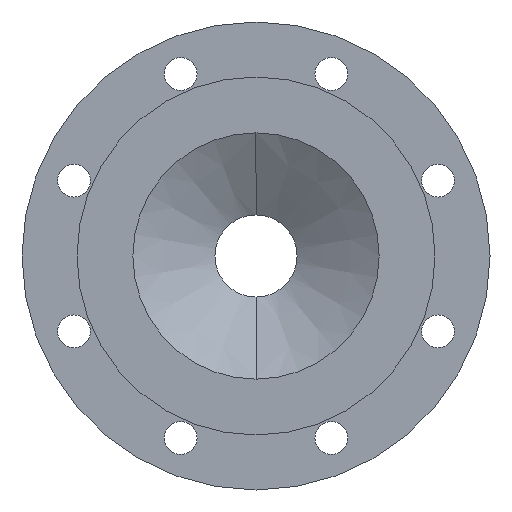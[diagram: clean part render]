
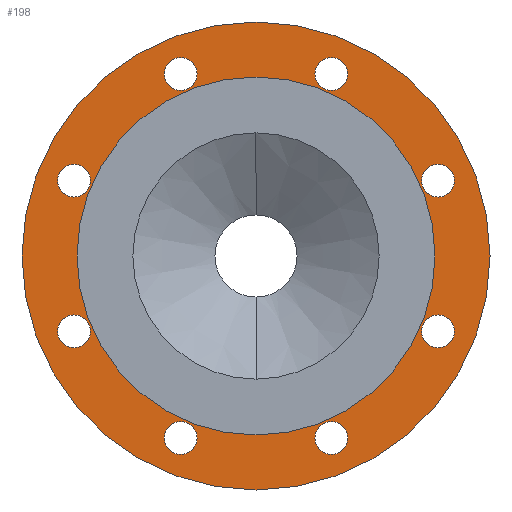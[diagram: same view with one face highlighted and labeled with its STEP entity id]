
A CAD part, left-side view. The second image highlights one B-rep face of the part: STEP entity #198.
In plain terms, the highlighted planar face has unit normal (-1, 0, 0).
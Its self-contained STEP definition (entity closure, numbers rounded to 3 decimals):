
#198=ADVANCED_FACE('',(#420,#421,#422,#423,#424,#425,#426,#427,#428,#429),#430,.F.);
#420=FACE_BOUND('',#748,.T.);
#421=FACE_BOUND('',#749,.T.);
#422=FACE_BOUND('',#750,.T.);
#423=FACE_BOUND('',#751,.T.);
#424=FACE_BOUND('',#752,.T.);
#425=FACE_BOUND('',#753,.T.);
#426=FACE_BOUND('',#754,.T.);
#427=FACE_BOUND('',#755,.T.);
#428=FACE_BOUND('',#756,.T.);
#429=FACE_OUTER_BOUND('',#757,.T.);
#430=PLANE('',#758);
#748=EDGE_LOOP('',(#1020,#1021));
#749=EDGE_LOOP('',(#1022,#1023));
#750=EDGE_LOOP('',(#1024,#1025));
#751=EDGE_LOOP('',(#1026,#1027));
#752=EDGE_LOOP('',(#1028,#1029));
#753=EDGE_LOOP('',(#1030,#1031));
#754=EDGE_LOOP('',(#1032,#1033));
#755=EDGE_LOOP('',(#1034,#1035));
#756=EDGE_LOOP('',(#1036,#1037));
#757=EDGE_LOOP('',(#1038,#1039));
#758=AXIS2_PLACEMENT_3D('',#1040,#1041,#1042);
#1020=ORIENTED_EDGE('',*,*,#1691,.T.);
#1021=ORIENTED_EDGE('',*,*,#1692,.T.);
#1022=ORIENTED_EDGE('',*,*,#1693,.T.);
#1023=ORIENTED_EDGE('',*,*,#1694,.T.);
#1024=ORIENTED_EDGE('',*,*,#1695,.T.);
#1025=ORIENTED_EDGE('',*,*,#1696,.T.);
#1026=ORIENTED_EDGE('',*,*,#1697,.T.);
#1027=ORIENTED_EDGE('',*,*,#1698,.T.);
#1028=ORIENTED_EDGE('',*,*,#1699,.T.);
#1029=ORIENTED_EDGE('',*,*,#1700,.T.);
#1030=ORIENTED_EDGE('',*,*,#1701,.T.);
#1031=ORIENTED_EDGE('',*,*,#1702,.T.);
#1032=ORIENTED_EDGE('',*,*,#1703,.T.);
#1033=ORIENTED_EDGE('',*,*,#1704,.T.);
#1034=ORIENTED_EDGE('',*,*,#1705,.T.);
#1035=ORIENTED_EDGE('',*,*,#1706,.T.);
#1036=ORIENTED_EDGE('',*,*,#1707,.T.);
#1037=ORIENTED_EDGE('',*,*,#1708,.T.);
#1038=ORIENTED_EDGE('',*,*,#1709,.F.);
#1039=ORIENTED_EDGE('',*,*,#1710,.F.);
#1040=CARTESIAN_POINT('',(1.0,0.0,0.));
#1041=DIRECTION('',(1.0,0.0,0.));
#1042=DIRECTION('',(0.,0.0,-1.0));
#1691=EDGE_CURVE('',#1956,#1957,#1958,.T.);
#1692=EDGE_CURVE('',#1957,#1956,#1959,.T.);
#1693=EDGE_CURVE('',#1960,#1961,#1962,.T.);
#1694=EDGE_CURVE('',#1961,#1960,#1963,.T.);
#1695=EDGE_CURVE('',#1964,#1965,#1966,.T.);
#1696=EDGE_CURVE('',#1965,#1964,#1967,.T.);
#1697=EDGE_CURVE('',#1968,#1969,#1970,.T.);
#1698=EDGE_CURVE('',#1969,#1968,#1971,.T.);
#1699=EDGE_CURVE('',#1972,#1973,#1974,.T.);
#1700=EDGE_CURVE('',#1973,#1972,#1975,.T.);
#1701=EDGE_CURVE('',#1976,#1977,#1978,.T.);
#1702=EDGE_CURVE('',#1977,#1976,#1979,.T.);
#1703=EDGE_CURVE('',#1980,#1981,#1982,.T.);
#1704=EDGE_CURVE('',#1981,#1980,#1983,.T.);
#1705=EDGE_CURVE('',#1984,#1985,#1986,.T.);
#1706=EDGE_CURVE('',#1985,#1984,#1987,.T.);
#1707=EDGE_CURVE('',#1988,#1989,#1990,.T.);
#1708=EDGE_CURVE('',#1989,#1988,#1991,.T.);
#1709=EDGE_CURVE('',#1992,#1993,#1994,.T.);
#1710=EDGE_CURVE('',#1993,#1992,#1995,.T.);
#1956=VERTEX_POINT('',#2335);
#1957=VERTEX_POINT('',#2336);
#1958=CIRCLE('',#2337,10.0);
#1959=CIRCLE('',#2338,10.0);
#1960=VERTEX_POINT('',#2339);
#1961=VERTEX_POINT('',#2340);
#1962=CIRCLE('',#2341,10.0);
#1963=CIRCLE('',#2342,10.0);
#1964=VERTEX_POINT('',#2343);
#1965=VERTEX_POINT('',#2344);
#1966=CIRCLE('',#2345,10.0);
#1967=CIRCLE('',#2346,10.0);
#1968=VERTEX_POINT('',#2347);
#1969=VERTEX_POINT('',#2348);
#1970=CIRCLE('',#2349,10.0);
#1971=CIRCLE('',#2350,10.0);
#1972=VERTEX_POINT('',#2351);
#1973=VERTEX_POINT('',#2352);
#1974=CIRCLE('',#2353,10.0);
#1975=CIRCLE('',#2354,10.0);
#1976=VERTEX_POINT('',#2355);
#1977=VERTEX_POINT('',#2356);
#1978=CIRCLE('',#2357,10.0);
#1979=CIRCLE('',#2358,10.0);
#1980=VERTEX_POINT('',#2359);
#1981=VERTEX_POINT('',#2360);
#1982=CIRCLE('',#2361,10.0);
#1983=CIRCLE('',#2362,10.0);
#1984=VERTEX_POINT('',#2363);
#1985=VERTEX_POINT('',#2364);
#1986=CIRCLE('',#2365,10.0);
#1987=CIRCLE('',#2366,10.0);
#1988=VERTEX_POINT('',#2367);
#1989=VERTEX_POINT('',#2368);
#1990=CIRCLE('',#2369,109.0);
#1991=CIRCLE('',#2370,109.0);
#1992=VERTEX_POINT('',#2371);
#1993=VERTEX_POINT('',#2372);
#1994=CIRCLE('',#2373,142.5);
#1995=CIRCLE('',#2374,142.5);
#2335=CARTESIAN_POINT('',(1.0,110.866,-55.922));
#2336=CARTESIAN_POINT('',(1.0,110.866,-35.922));
#2337=AXIS2_PLACEMENT_3D('',#2819,#2820,#2821);
#2338=AXIS2_PLACEMENT_3D('',#2822,#2823,#2824);
#2339=CARTESIAN_POINT('',(1.0,45.922,-120.866));
#2340=CARTESIAN_POINT('',(1.,45.922,-100.866));
#2341=AXIS2_PLACEMENT_3D('',#2825,#2826,#2827);
#2342=AXIS2_PLACEMENT_3D('',#2828,#2829,#2830);
#2343=CARTESIAN_POINT('',(1.0,-110.866,35.922));
#2344=CARTESIAN_POINT('',(1.,-110.866,55.922));
#2345=AXIS2_PLACEMENT_3D('',#2831,#2832,#2833);
#2346=AXIS2_PLACEMENT_3D('',#2834,#2835,#2836);
#2347=CARTESIAN_POINT('',(1.0,-45.922,100.866));
#2348=CARTESIAN_POINT('',(1.,-45.922,120.866));
#2349=AXIS2_PLACEMENT_3D('',#2837,#2838,#2839);
#2350=AXIS2_PLACEMENT_3D('',#2840,#2841,#2842);
#2351=CARTESIAN_POINT('',(1.0,110.866,35.922));
#2352=CARTESIAN_POINT('',(1.,110.866,55.922));
#2353=AXIS2_PLACEMENT_3D('',#2843,#2844,#2845);
#2354=AXIS2_PLACEMENT_3D('',#2846,#2847,#2848);
#2355=CARTESIAN_POINT('',(1.0,45.922,100.866));
#2356=CARTESIAN_POINT('',(1.,45.922,120.866));
#2357=AXIS2_PLACEMENT_3D('',#2849,#2850,#2851);
#2358=AXIS2_PLACEMENT_3D('',#2852,#2853,#2854);
#2359=CARTESIAN_POINT('',(1.0,-110.866,-55.922));
#2360=CARTESIAN_POINT('',(1.0,-110.866,-35.922));
#2361=AXIS2_PLACEMENT_3D('',#2855,#2856,#2857);
#2362=AXIS2_PLACEMENT_3D('',#2858,#2859,#2860);
#2363=CARTESIAN_POINT('',(1.0,-45.922,-120.866));
#2364=CARTESIAN_POINT('',(1.,-45.922,-100.866));
#2365=AXIS2_PLACEMENT_3D('',#2861,#2862,#2863);
#2366=AXIS2_PLACEMENT_3D('',#2864,#2865,#2866);
#2367=CARTESIAN_POINT('',(1.,0.0,-109.0));
#2368=CARTESIAN_POINT('',(1.,0.,109.0));
#2369=AXIS2_PLACEMENT_3D('',#2867,#2868,#2869);
#2370=AXIS2_PLACEMENT_3D('',#2870,#2871,#2872);
#2371=CARTESIAN_POINT('',(1.,0.0,-142.5));
#2372=CARTESIAN_POINT('',(1.,0.,142.5));
#2373=AXIS2_PLACEMENT_3D('',#2873,#2874,#2875);
#2374=AXIS2_PLACEMENT_3D('',#2876,#2877,#2878);
#2819=CARTESIAN_POINT('',(1.0,110.866,-45.922));
#2820=DIRECTION('',(1.0,0.0,0.));
#2821=DIRECTION('',(0.,0.0,-1.0));
#2822=CARTESIAN_POINT('',(1.0,110.866,-45.922));
#2823=DIRECTION('',(1.0,0.0,0.));
#2824=DIRECTION('',(0.,0.0,-1.0));
#2825=CARTESIAN_POINT('',(1.,45.922,-110.866));
#2826=DIRECTION('',(1.0,0.0,0.));
#2827=DIRECTION('',(0.,0.0,-1.0));
#2828=CARTESIAN_POINT('',(1.,45.922,-110.866));
#2829=DIRECTION('',(1.0,0.0,0.));
#2830=DIRECTION('',(0.,0.0,-1.0));
#2831=CARTESIAN_POINT('',(1.,-110.866,45.922));
#2832=DIRECTION('',(1.0,0.0,0.));
#2833=DIRECTION('',(0.,0.0,-1.0));
#2834=CARTESIAN_POINT('',(1.,-110.866,45.922));
#2835=DIRECTION('',(1.0,0.0,0.));
#2836=DIRECTION('',(0.,0.0,-1.0));
#2837=CARTESIAN_POINT('',(1.,-45.922,110.866));
#2838=DIRECTION('',(1.0,0.0,0.));
#2839=DIRECTION('',(0.,0.0,-1.0));
#2840=CARTESIAN_POINT('',(1.,-45.922,110.866));
#2841=DIRECTION('',(1.0,0.0,0.));
#2842=DIRECTION('',(0.,0.0,-1.0));
#2843=CARTESIAN_POINT('',(1.,110.866,45.922));
#2844=DIRECTION('',(1.0,0.0,0.));
#2845=DIRECTION('',(0.,0.0,-1.0));
#2846=CARTESIAN_POINT('',(1.,110.866,45.922));
#2847=DIRECTION('',(1.0,0.0,0.));
#2848=DIRECTION('',(0.,0.0,-1.0));
#2849=CARTESIAN_POINT('',(1.,45.922,110.866));
#2850=DIRECTION('',(1.0,0.0,0.));
#2851=DIRECTION('',(0.,0.0,-1.0));
#2852=CARTESIAN_POINT('',(1.,45.922,110.866));
#2853=DIRECTION('',(1.0,0.0,0.));
#2854=DIRECTION('',(0.,0.0,-1.0));
#2855=CARTESIAN_POINT('',(1.0,-110.866,-45.922));
#2856=DIRECTION('',(1.0,0.0,0.));
#2857=DIRECTION('',(0.,0.0,-1.0));
#2858=CARTESIAN_POINT('',(1.0,-110.866,-45.922));
#2859=DIRECTION('',(1.0,0.0,0.));
#2860=DIRECTION('',(0.,0.0,-1.0));
#2861=CARTESIAN_POINT('',(1.,-45.922,-110.866));
#2862=DIRECTION('',(1.0,0.0,0.));
#2863=DIRECTION('',(0.,0.0,-1.0));
#2864=CARTESIAN_POINT('',(1.,-45.922,-110.866));
#2865=DIRECTION('',(1.0,0.0,0.));
#2866=DIRECTION('',(0.,0.0,-1.0));
#2867=CARTESIAN_POINT('',(1.0,0.0,0.));
#2868=DIRECTION('',(1.0,0.0,0.));
#2869=DIRECTION('',(0.,0.0,-1.0));
#2870=CARTESIAN_POINT('',(1.0,0.0,0.));
#2871=DIRECTION('',(1.0,0.0,0.));
#2872=DIRECTION('',(0.,0.0,-1.0));
#2873=CARTESIAN_POINT('',(1.0,0.0,0.));
#2874=DIRECTION('',(1.0,0.0,0.));
#2875=DIRECTION('',(0.,0.0,-1.0));
#2876=CARTESIAN_POINT('',(1.0,0.0,0.));
#2877=DIRECTION('',(1.0,0.0,0.));
#2878=DIRECTION('',(0.,0.0,-1.0));
